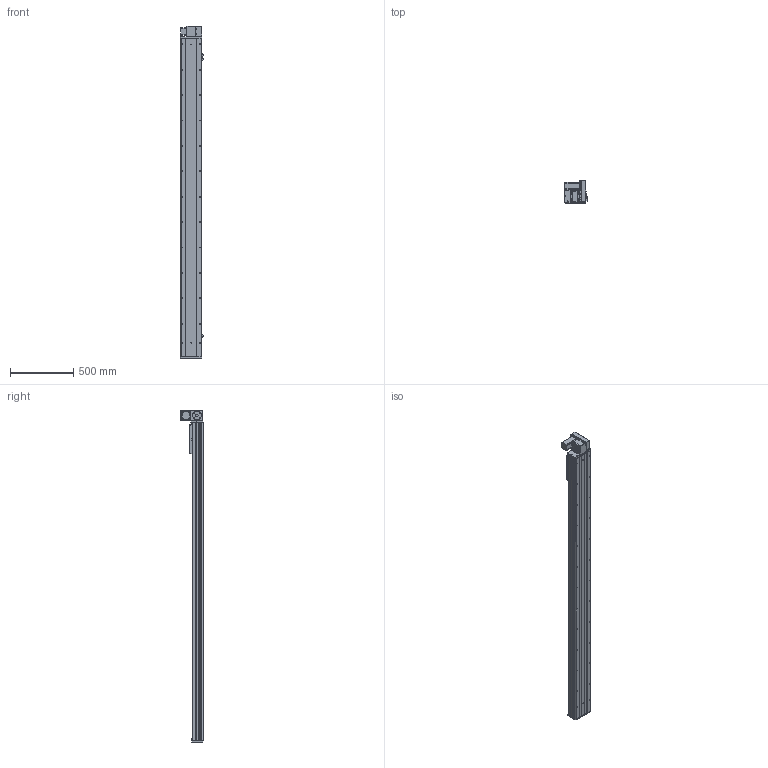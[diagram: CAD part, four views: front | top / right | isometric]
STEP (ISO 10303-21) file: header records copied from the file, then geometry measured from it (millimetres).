
FILE_DESCRIPTION (( 'STEP AP203' ), '1' );
FILE_NAME ('Y170CB-D105-S2200-UR-P400W.STEP', '2020-02-20T05:40:50', ( '微软用户' ), ( '微软中国' ), 'SwSTEP 2.0', 'SolidWorks 2017', '' );
FILE_SCHEMA (( 'CONFIG_CONTROL_DESIGN' ));
Length unit declared in the file: millimetre
Products named in the file (18): 70CB--耜裔; 70B喘謫眊----; 70C-雄赽釱-奻-; B-源倛裔啣; Y170CB-D105-S2200-UR-P400W; 0C--雄赽釱俋欶-170; 0B-萇儂楊擘啣; 70CB-詩湍--; san松下电机400不带刹车----; Y100-135俋离換覜ん--; 70CB-掛极-; Y170CB-陔俋离換覜結え---; --70CB --喘謫眊楊擘啣-; Y1埴倛裔; 70CB-耜裔啣-; 17B-耜蚾蟀諉啣----; 70C--詩湍揤踡え-; 00B-俋欶BM--163
Assembly tree (21 placements, depth 2):
  Y170CB-D105-S2200-UR-P400W
    B-源倛裔啣
    0B-萇儂楊擘啣
    san松下电机400不带刹车----
    70CB-掛极-
    --70CB --喘謫眊楊擘啣-
    70CB-耜裔啣-  x2
    70C--詩湍揤踡え-  x2
    70CB--耜裔
    70C-雄赽釱-奻-
    0C--雄赽釱俋欶-170
    70CB-詩湍--
    Y100-135俋离換覜ん--  x3
    Y170CB-陔俋离換覜結え---
    Y1埴倛裔
    17B-耜蚾蟀諉啣----
    00B-俋欶BM--163
    70B喘謫眊----
Bounding box: 183.5 x 174 x 2616 mm (x, y, z)
Volume: 11264373.5 mm3; surface area: 4064117.1 mm2
Topology: 21 solids, 21 shells, 1055 faces, 2837 edges, 1882 vertices
Faces by surface type: cylinder 569, plane 462, cone 24
Entity records: 33788 total; most frequent: CARTESIAN_POINT 6216, DIRECTION 5498, ORIENTED_EDGE 5156, EDGE_CURVE 2578, AXIS2_PLACEMENT_3D 2028, VERTEX_POINT 1712, VECTOR 1442, LINE 1442
